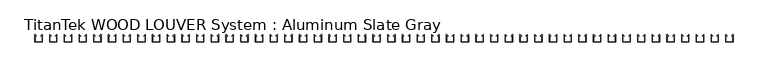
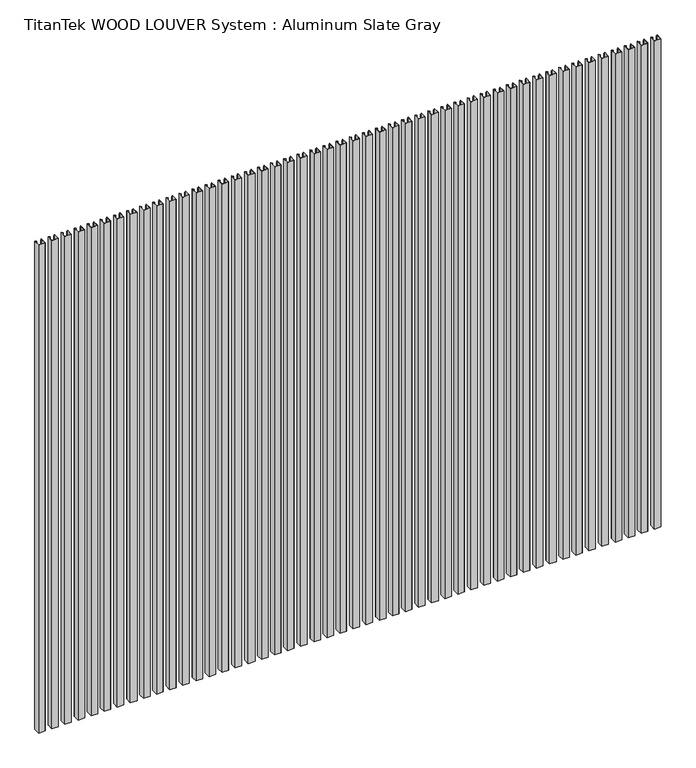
"""IFC4 building model written with IfcOpenShell, lengths in millimetres: proxy geometry, TitanTek WOOD LOUVER System : Aluminum Slate Gray."""

from ifc_helpers import new_model, si_unit, origin, origin_with_axes, place, context, project, spatial, polyline, outline, extrude, source, transform, mapped, element, save


def titantek_wood_louver_system_aluminum_slate_gray_186ec220(model_context):
    return source(origin(), model_context, "Body", "SweptSolid", [
        extrude(outline(polyline([(4749.8, -50.8), (4749.8, 0.0), (4750.7921875, 0.0), (4760.7707019, -8.3729677), (4760.132936, -9.1330275), (4750.7921875, -1.2952088), (4750.7921875, -49.8078125), (4799.6078125, -49.8078125), (4799.6078125, -1.2952088), (4790.267064, -9.1330275), (4789.6292981, -8.3729677), (4799.6078125, 0.0), (4800.6, 0.0), (4800.6, -50.8), (4749.8, -50.8)])), origin_with_axes(), (0.0, 0.0, 1.0), 4000.0),
        extrude(outline(polyline([(4648.2, -50.8), (4648.2, 0.0), (4649.1921875, 0.0), (4659.1707019, -8.3729677), (4658.532936, -9.1330275), (4649.1921875, -1.2952088), (4649.1921875, -49.8078125), (4698.0078125, -49.8078125), (4698.0078125, -1.2952088), (4688.667064, -9.1330275), (4688.0292981, -8.3729677), (4698.0078125, 0.0), (4699.0, 0.0), (4699.0, -50.8), (4648.2, -50.8)])), origin_with_axes(), (0.0, 0.0, 1.0), 4000.0),
        extrude(outline(polyline([(4546.6, -50.8), (4546.6, 0.0), (4547.5921875, 0.0), (4557.5707019, -8.3729677), (4556.932936, -9.1330275), (4547.5921875, -1.2952088), (4547.5921875, -49.8078125), (4596.4078125, -49.8078125), (4596.4078125, -1.2952088), (4587.067064, -9.1330275), (4586.4292981, -8.3729677), (4596.4078125, 0.0), (4597.4, 0.0), (4597.4, -50.8), (4546.6, -50.8)])), origin_with_axes(), (0.0, 0.0, 1.0), 4000.0),
        extrude(outline(polyline([(4445.0, -50.8), (4445.0, 0.0), (4445.9921875, 0.0), (4455.9707019, -8.3729677), (4455.332936, -9.1330275), (4445.9921875, -1.2952088), (4445.9921875, -49.8078125), (4494.8078125, -49.8078125), (4494.8078125, -1.2952088), (4485.467064, -9.1330275), (4484.8292981, -8.3729677), (4494.8078125, 0.0), (4495.8, 0.0), (4495.8, -50.8), (4445.0, -50.8)])), origin_with_axes(), (0.0, 0.0, 1.0), 4000.0),
        extrude(outline(polyline([(4343.4, -50.8), (4343.4, 0.0), (4344.3921875, 0.0), (4354.3707019, -8.3729677), (4353.732936, -9.1330275), (4344.3921875, -1.2952088), (4344.3921875, -49.8078125), (4393.2078125, -49.8078125), (4393.2078125, -1.2952088), (4383.867064, -9.1330275), (4383.2292981, -8.3729677), (4393.2078125, 0.0), (4394.2, 0.0), (4394.2, -50.8), (4343.4, -50.8)])), origin_with_axes(), (0.0, 0.0, 1.0), 4000.0),
        extrude(outline(polyline([(4241.8, -50.8), (4241.8, 0.0), (4242.7921875, 0.0), (4252.7707019, -8.3729677), (4252.132936, -9.1330275), (4242.7921875, -1.2952088), (4242.7921875, -49.8078125), (4291.6078125, -49.8078125), (4291.6078125, -1.2952088), (4282.267064, -9.1330275), (4281.6292981, -8.3729677), (4291.6078125, 0.0), (4292.6, 0.0), (4292.6, -50.8), (4241.8, -50.8)])), origin_with_axes(), (0.0, 0.0, 1.0), 4000.0),
        extrude(outline(polyline([(4140.2, -50.8), (4140.2, 0.0), (4141.1921875, 0.0), (4151.1707019, -8.3729677), (4150.532936, -9.1330275), (4141.1921875, -1.2952088), (4141.1921875, -49.8078125), (4190.0078125, -49.8078125), (4190.0078125, -1.2952088), (4180.667064, -9.1330275), (4180.0292981, -8.3729677), (4190.0078125, 0.0), (4191.0, 0.0), (4191.0, -50.8), (4140.2, -50.8)])), origin_with_axes(), (0.0, 0.0, 1.0), 4000.0),
        extrude(outline(polyline([(4038.6, -50.8), (4038.6, 0.0), (4039.5921875, 0.0), (4049.5707019, -8.3729677), (4048.932936, -9.1330275), (4039.5921875, -1.2952088), (4039.5921875, -49.8078125), (4088.4078125, -49.8078125), (4088.4078125, -1.2952088), (4079.067064, -9.1330275), (4078.4292981, -8.3729677), (4088.4078125, 0.0), (4089.4, 0.0), (4089.4, -50.8), (4038.6, -50.8)])), origin_with_axes(), (0.0, 0.0, 1.0), 4000.0),
        extrude(outline(polyline([(3937.0, -50.8), (3937.0, 0.0), (3937.9921875, 0.0), (3947.9707019, -8.3729677), (3947.332936, -9.1330275), (3937.9921875, -1.2952088), (3937.9921875, -49.8078125), (3986.8078125, -49.8078125), (3986.8078125, -1.2952088), (3977.467064, -9.1330275), (3976.8292981, -8.3729677), (3986.8078125, 0.0), (3987.8, 0.0), (3987.8, -50.8), (3937.0, -50.8)])), origin_with_axes(), (0.0, 0.0, 1.0), 4000.0),
        extrude(outline(polyline([(3835.4, -50.8), (3835.4, 0.0), (3836.3921875, 0.0), (3846.3707019, -8.3729677), (3845.732936, -9.1330275), (3836.3921875, -1.2952088), (3836.3921875, -49.8078125), (3885.2078125, -49.8078125), (3885.2078125, -1.2952088), (3875.867064, -9.1330275), (3875.2292981, -8.3729677), (3885.2078125, 0.0), (3886.2, 0.0), (3886.2, -50.8), (3835.4, -50.8)])), origin_with_axes(), (0.0, 0.0, 1.0), 4000.0),
        extrude(outline(polyline([(3733.8, -50.8), (3733.8, 0.0), (3734.7921875, 0.0), (3744.7707019, -8.3729677), (3744.132936, -9.1330275), (3734.7921875, -1.2952088), (3734.7921875, -49.8078125), (3783.6078125, -49.8078125), (3783.6078125, -1.2952088), (3774.267064, -9.1330275), (3773.6292981, -8.3729677), (3783.6078125, 0.0), (3784.6, 0.0), (3784.6, -50.8), (3733.8, -50.8)])), origin_with_axes(), (0.0, 0.0, 1.0), 4000.0),
        extrude(outline(polyline([(3632.2, -50.8), (3632.2, 0.0), (3633.1921875, 0.0), (3643.1707019, -8.3729677), (3642.532936, -9.1330275), (3633.1921875, -1.2952088), (3633.1921875, -49.8078125), (3682.0078125, -49.8078125), (3682.0078125, -1.2952088), (3672.667064, -9.1330275), (3672.0292981, -8.3729677), (3682.0078125, 0.0), (3683.0, 0.0), (3683.0, -50.8), (3632.2, -50.8)])), origin_with_axes(), (0.0, 0.0, 1.0), 4000.0),
        extrude(outline(polyline([(3530.6, -50.8), (3530.6, 0.0), (3531.5921875, 0.0), (3541.5707019, -8.3729677), (3540.932936, -9.1330275), (3531.5921875, -1.2952088), (3531.5921875, -49.8078125), (3580.4078125, -49.8078125), (3580.4078125, -1.2952088), (3571.067064, -9.1330275), (3570.4292981, -8.3729677), (3580.4078125, 0.0), (3581.4, 0.0), (3581.4, -50.8), (3530.6, -50.8)])), origin_with_axes(), (0.0, 0.0, 1.0), 4000.0),
        extrude(outline(polyline([(3429.0, -50.8), (3429.0, 0.0), (3429.9921875, 0.0), (3439.9707019, -8.3729677), (3439.332936, -9.1330275), (3429.9921875, -1.2952088), (3429.9921875, -49.8078125), (3478.8078125, -49.8078125), (3478.8078125, -1.2952088), (3469.467064, -9.1330275), (3468.8292981, -8.3729677), (3478.8078125, 0.0), (3479.8, 0.0), (3479.8, -50.8), (3429.0, -50.8)])), origin_with_axes(), (0.0, 0.0, 1.0), 4000.0),
        extrude(outline(polyline([(3327.4, -50.8), (3327.4, 0.0), (3328.3921875, 0.0), (3338.3707019, -8.3729677), (3337.732936, -9.1330275), (3328.3921875, -1.2952088), (3328.3921875, -49.8078125), (3377.2078125, -49.8078125), (3377.2078125, -1.2952088), (3367.867064, -9.1330275), (3367.2292981, -8.3729677), (3377.2078125, 0.0), (3378.2, 0.0), (3378.2, -50.8), (3327.4, -50.8)])), origin_with_axes(), (0.0, 0.0, 1.0), 4000.0),
        extrude(outline(polyline([(3225.8, -50.8), (3225.8, 0.0), (3226.7921875, 0.0), (3236.7707019, -8.3729677), (3236.132936, -9.1330275), (3226.7921875, -1.2952088), (3226.7921875, -49.8078125), (3275.6078125, -49.8078125), (3275.6078125, -1.2952088), (3266.267064, -9.1330275), (3265.6292981, -8.3729677), (3275.6078125, 0.0), (3276.6, 0.0), (3276.6, -50.8), (3225.8, -50.8)])), origin_with_axes(), (0.0, 0.0, 1.0), 4000.0),
        extrude(outline(polyline([(3124.2, -50.8), (3124.2, 0.0), (3125.1921875, 0.0), (3135.1707019, -8.3729677), (3134.532936, -9.1330275), (3125.1921875, -1.2952088), (3125.1921875, -49.8078125), (3174.0078125, -49.8078125), (3174.0078125, -1.2952088), (3164.667064, -9.1330275), (3164.0292981, -8.3729677), (3174.0078125, 0.0), (3175.0, 0.0), (3175.0, -50.8), (3124.2, -50.8)])), origin_with_axes(), (0.0, 0.0, 1.0), 4000.0),
        extrude(outline(polyline([(3022.6, -50.8), (3022.6, 0.0), (3023.5921875, 0.0), (3033.5707019, -8.3729677), (3032.932936, -9.1330275), (3023.5921875, -1.2952088), (3023.5921875, -49.8078125), (3072.4078125, -49.8078125), (3072.4078125, -1.2952088), (3063.067064, -9.1330275), (3062.4292981, -8.3729677), (3072.4078125, 0.0), (3073.4, 0.0), (3073.4, -50.8), (3022.6, -50.8)])), origin_with_axes(), (0.0, 0.0, 1.0), 4000.0),
        extrude(outline(polyline([(2921.0, -50.8), (2921.0, 0.0), (2921.9921875, 0.0), (2931.9707019, -8.3729677), (2931.332936, -9.1330275), (2921.9921875, -1.2952088), (2921.9921875, -49.8078125), (2970.8078125, -49.8078125), (2970.8078125, -1.2952088), (2961.467064, -9.1330275), (2960.8292981, -8.3729677), (2970.8078125, 0.0), (2971.8, 0.0), (2971.8, -50.8), (2921.0, -50.8)])), origin_with_axes(), (0.0, 0.0, 1.0), 4000.0),
        extrude(outline(polyline([(2819.4, -50.8), (2819.4, 0.0), (2820.3921875, 0.0), (2830.3707019, -8.3729677), (2829.732936, -9.1330275), (2820.3921875, -1.2952088), (2820.3921875, -49.8078125), (2869.2078125, -49.8078125), (2869.2078125, -1.2952088), (2859.867064, -9.1330275), (2859.2292981, -8.3729677), (2869.2078125, 0.0), (2870.2, 0.0), (2870.2, -50.8), (2819.4, -50.8)])), origin_with_axes(), (0.0, 0.0, 1.0), 4000.0),
        extrude(outline(polyline([(2717.8, -50.8), (2717.8, 0.0), (2718.7921875, 0.0), (2728.7707019, -8.3729677), (2728.132936, -9.1330275), (2718.7921875, -1.2952088), (2718.7921875, -49.8078125), (2767.6078125, -49.8078125), (2767.6078125, -1.2952088), (2758.267064, -9.1330275), (2757.6292981, -8.3729677), (2767.6078125, 0.0), (2768.6, 0.0), (2768.6, -50.8), (2717.8, -50.8)])), origin_with_axes(), (0.0, 0.0, 1.0), 4000.0),
        extrude(outline(polyline([(2616.2, -50.8), (2616.2, 0.0), (2617.1921875, 0.0), (2627.1707019, -8.3729677), (2626.532936, -9.1330275), (2617.1921875, -1.2952088), (2617.1921875, -49.8078125), (2666.0078125, -49.8078125), (2666.0078125, -1.2952088), (2656.667064, -9.1330275), (2656.0292981, -8.3729677), (2666.0078125, 0.0), (2667.0, 0.0), (2667.0, -50.8), (2616.2, -50.8)])), origin_with_axes(), (0.0, 0.0, 1.0), 4000.0),
        extrude(outline(polyline([(2514.6, -50.8), (2514.6, 0.0), (2515.5921875, 0.0), (2525.5707019, -8.3729677), (2524.932936, -9.1330275), (2515.5921875, -1.2952088), (2515.5921875, -49.8078125), (2564.4078125, -49.8078125), (2564.4078125, -1.2952088), (2555.067064, -9.1330275), (2554.4292981, -8.3729677), (2564.4078125, 0.0), (2565.4, 0.0), (2565.4, -50.8), (2514.6, -50.8)])), origin_with_axes(), (0.0, 0.0, 1.0), 4000.0),
        extrude(outline(polyline([(2413.0, -50.8), (2413.0, 0.0), (2413.9921875, 0.0), (2423.9707019, -8.3729677), (2423.332936, -9.1330275), (2413.9921875, -1.2952088), (2413.9921875, -49.8078125), (2462.8078125, -49.8078125), (2462.8078125, -1.2952088), (2453.467064, -9.1330275), (2452.8292981, -8.3729677), (2462.8078125, 0.0), (2463.8, 0.0), (2463.8, -50.8), (2413.0, -50.8)])), origin_with_axes(), (0.0, 0.0, 1.0), 4000.0),
        extrude(outline(polyline([(2311.4, -50.8), (2311.4, 0.0), (2312.3921875, 0.0), (2322.3707019, -8.3729677), (2321.732936, -9.1330275), (2312.3921875, -1.2952088), (2312.3921875, -49.8078125), (2361.2078125, -49.8078125), (2361.2078125, -1.2952088), (2351.867064, -9.1330275), (2351.2292981, -8.3729677), (2361.2078125, 0.0), (2362.2, 0.0), (2362.2, -50.8), (2311.4, -50.8)])), origin_with_axes(), (0.0, 0.0, 1.0), 4000.0),
        extrude(outline(polyline([(2209.8, -50.8), (2209.8, 0.0), (2210.7921875, 0.0), (2220.7707019, -8.3729677), (2220.132936, -9.1330275), (2210.7921875, -1.2952088), (2210.7921875, -49.8078125), (2259.6078125, -49.8078125), (2259.6078125, -1.2952088), (2250.267064, -9.1330275), (2249.6292981, -8.3729677), (2259.6078125, 0.0), (2260.6, 0.0), (2260.6, -50.8), (2209.8, -50.8)])), origin_with_axes(), (0.0, 0.0, 1.0), 4000.0),
        extrude(outline(polyline([(2108.2, -50.8), (2108.2, 0.0), (2109.1921875, 0.0), (2119.1707019, -8.3729677), (2118.532936, -9.1330275), (2109.1921875, -1.2952088), (2109.1921875, -49.8078125), (2158.0078125, -49.8078125), (2158.0078125, -1.2952088), (2148.667064, -9.1330275), (2148.0292981, -8.3729677), (2158.0078125, 0.0), (2159.0, 0.0), (2159.0, -50.8), (2108.2, -50.8)])), origin_with_axes(), (0.0, 0.0, 1.0), 4000.0),
        extrude(outline(polyline([(2006.6, -50.8), (2006.6, 0.0), (2007.5921875, 0.0), (2017.5707019, -8.3729677), (2016.932936, -9.1330275), (2007.5921875, -1.2952088), (2007.5921875, -49.8078125), (2056.4078125, -49.8078125), (2056.4078125, -1.2952088), (2047.067064, -9.1330275), (2046.4292981, -8.3729677), (2056.4078125, 0.0), (2057.4, 0.0), (2057.4, -50.8), (2006.6, -50.8)])), origin_with_axes(), (0.0, 0.0, 1.0), 4000.0),
        extrude(outline(polyline([(1905.0, -50.8), (1905.0, 0.0), (1905.9921875, 0.0), (1915.9707019, -8.3729677), (1915.332936, -9.1330275), (1905.9921875, -1.2952088), (1905.9921875, -49.8078125), (1954.8078125, -49.8078125), (1954.8078125, -1.2952088), (1945.467064, -9.1330275), (1944.8292981, -8.3729677), (1954.8078125, 0.0), (1955.8, 0.0), (1955.8, -50.8), (1905.0, -50.8)])), origin_with_axes(), (0.0, 0.0, 1.0), 4000.0),
        extrude(outline(polyline([(1803.4, -50.8), (1803.4, 0.0), (1804.3921875, 0.0), (1814.3707019, -8.3729677), (1813.732936, -9.1330275), (1804.3921875, -1.2952088), (1804.3921875, -49.8078125), (1853.2078125, -49.8078125), (1853.2078125, -1.2952088), (1843.867064, -9.1330275), (1843.2292981, -8.3729677), (1853.2078125, 0.0), (1854.2, 0.0), (1854.2, -50.8), (1803.4, -50.8)])), origin_with_axes(), (0.0, 0.0, 1.0), 4000.0),
        extrude(outline(polyline([(1701.8, -50.8), (1701.8, 0.0), (1702.7921875, 0.0), (1712.7707019, -8.3729677), (1712.132936, -9.1330275), (1702.7921875, -1.2952088), (1702.7921875, -49.8078125), (1751.6078125, -49.8078125), (1751.6078125, -1.2952088), (1742.267064, -9.1330275), (1741.6292981, -8.3729677), (1751.6078125, 0.0), (1752.6, 0.0), (1752.6, -50.8), (1701.8, -50.8)])), origin_with_axes(), (0.0, 0.0, 1.0), 4000.0),
        extrude(outline(polyline([(1600.2, -50.8), (1600.2, 0.0), (1601.1921875, 0.0), (1611.1707019, -8.3729677), (1610.532936, -9.1330275), (1601.1921875, -1.2952088), (1601.1921875, -49.8078125), (1650.0078125, -49.8078125), (1650.0078125, -1.2952088), (1640.667064, -9.1330275), (1640.0292981, -8.3729677), (1650.0078125, 0.0), (1651.0, 0.0), (1651.0, -50.8), (1600.2, -50.8)])), origin_with_axes(), (0.0, 0.0, 1.0), 4000.0),
        extrude(outline(polyline([(1498.6, -50.8), (1498.6, 0.0), (1499.5921875, 0.0), (1509.5707019, -8.3729677), (1508.932936, -9.1330275), (1499.5921875, -1.2952088), (1499.5921875, -49.8078125), (1548.4078125, -49.8078125), (1548.4078125, -1.2952088), (1539.067064, -9.1330275), (1538.4292981, -8.3729677), (1548.4078125, 0.0), (1549.4, 0.0), (1549.4, -50.8), (1498.6, -50.8)])), origin_with_axes(), (0.0, 0.0, 1.0), 4000.0),
        extrude(outline(polyline([(1397.0, -50.8), (1397.0, 0.0), (1397.9921875, 0.0), (1407.9707019, -8.3729677), (1407.332936, -9.1330275), (1397.9921875, -1.2952088), (1397.9921875, -49.8078125), (1446.8078125, -49.8078125), (1446.8078125, -1.2952088), (1437.467064, -9.1330275), (1436.8292981, -8.3729677), (1446.8078125, 0.0), (1447.8, 0.0), (1447.8, -50.8), (1397.0, -50.8)])), origin_with_axes(), (0.0, 0.0, 1.0), 4000.0),
        extrude(outline(polyline([(1295.4, -50.8), (1295.4, 0.0), (1296.3921875, 0.0), (1306.3707019, -8.3729677), (1305.732936, -9.1330275), (1296.3921875, -1.2952088), (1296.3921875, -49.8078125), (1345.2078125, -49.8078125), (1345.2078125, -1.2952088), (1335.867064, -9.1330275), (1335.2292981, -8.3729677), (1345.2078125, 0.0), (1346.2, 0.0), (1346.2, -50.8), (1295.4, -50.8)])), origin_with_axes(), (0.0, 0.0, 1.0), 4000.0),
        extrude(outline(polyline([(1193.8, -50.8), (1193.8, 0.0), (1194.7921875, 0.0), (1204.7707019, -8.3729677), (1204.132936, -9.1330275), (1194.7921875, -1.2952088), (1194.7921875, -49.8078125), (1243.6078125, -49.8078125), (1243.6078125, -1.2952088), (1234.267064, -9.1330275), (1233.6292981, -8.3729677), (1243.6078125, 0.0), (1244.6, 0.0), (1244.6, -50.8), (1193.8, -50.8)])), origin_with_axes(), (0.0, 0.0, 1.0), 4000.0),
        extrude(outline(polyline([(1092.2, -50.8), (1092.2, 0.0), (1093.1921875, 0.0), (1103.1707019, -8.3729677), (1102.532936, -9.1330275), (1093.1921875, -1.2952088), (1093.1921875, -49.8078125), (1142.0078125, -49.8078125), (1142.0078125, -1.2952088), (1132.667064, -9.1330275), (1132.0292981, -8.3729677), (1142.0078125, 0.0), (1143.0, 0.0), (1143.0, -50.8), (1092.2, -50.8)])), origin_with_axes(), (0.0, 0.0, 1.0), 4000.0),
        extrude(outline(polyline([(990.6, -50.8), (990.6, 0.0), (991.5921875, 0.0), (1001.5707019, -8.3729677), (1000.932936, -9.1330275), (991.5921875, -1.2952088), (991.5921875, -49.8078125), (1040.4078125, -49.8078125), (1040.4078125, -1.2952088), (1031.067064, -9.1330275), (1030.4292981, -8.3729677), (1040.4078125, 0.0), (1041.4, 0.0), (1041.4, -50.8), (990.6, -50.8)])), origin_with_axes(), (0.0, 0.0, 1.0), 4000.0),
        extrude(outline(polyline([(889.0, -50.8), (889.0, 0.0), (889.9921875, 0.0), (899.9707019, -8.3729677), (899.332936, -9.1330275), (889.9921875, -1.2952088), (889.9921875, -49.8078125), (938.8078125, -49.8078125), (938.8078125, -1.2952088), (929.467064, -9.1330275), (928.8292981, -8.3729677), (938.8078125, 0.0), (939.8, 0.0), (939.8, -50.8), (889.0, -50.8)])), origin_with_axes(), (0.0, 0.0, 1.0), 4000.0),
        extrude(outline(polyline([(787.4, -50.8), (787.4, 0.0), (788.3921875, 0.0), (798.3707019, -8.3729677), (797.732936, -9.1330275), (788.3921875, -1.2952088), (788.3921875, -49.8078125), (837.2078125, -49.8078125), (837.2078125, -1.2952088), (827.867064, -9.1330275), (827.2292981, -8.3729677), (837.2078125, 0.0), (838.2, 0.0), (838.2, -50.8), (787.4, -50.8)])), origin_with_axes(), (0.0, 0.0, 1.0), 4000.0),
        extrude(outline(polyline([(685.8, -50.8), (685.8, 0.0), (686.7921875, 0.0), (696.7707019, -8.3729677), (696.132936, -9.1330275), (686.7921875, -1.2952088), (686.7921875, -49.8078125), (735.6078125, -49.8078125), (735.6078125, -1.2952088), (726.267064, -9.1330275), (725.6292981, -8.3729677), (735.6078125, 0.0), (736.6, 0.0), (736.6, -50.8), (685.8, -50.8)])), origin_with_axes(), (0.0, 0.0, 1.0), 4000.0),
        extrude(outline(polyline([(584.2, -50.8), (584.2, 0.0), (585.1921875, 0.0), (595.1707019, -8.3729677), (594.532936, -9.1330275), (585.1921875, -1.2952088), (585.1921875, -49.8078125), (634.0078125, -49.8078125), (634.0078125, -1.2952088), (624.667064, -9.1330275), (624.0292981, -8.3729677), (634.0078125, 0.0), (635.0, 0.0), (635.0, -50.8), (584.2, -50.8)])), origin_with_axes(), (0.0, 0.0, 1.0), 4000.0),
        extrude(outline(polyline([(482.6, -50.8), (482.6, 0.0), (483.5921875, 0.0), (493.5707019, -8.3729677), (492.932936, -9.1330275), (483.5921875, -1.2952088), (483.5921875, -49.8078125), (532.4078125, -49.8078125), (532.4078125, -1.2952088), (523.067064, -9.1330275), (522.4292981, -8.3729677), (532.4078125, 0.0), (533.4, 0.0), (533.4, -50.8), (482.6, -50.8)])), origin_with_axes(), (0.0, 0.0, 1.0), 4000.0),
        extrude(outline(polyline([(381.0, -50.8), (381.0, 0.0), (381.9921875, 0.0), (391.9707019, -8.3729677), (391.332936, -9.1330275), (381.9921875, -1.2952088), (381.9921875, -49.8078125), (430.8078125, -49.8078125), (430.8078125, -1.2952088), (421.467064, -9.1330275), (420.8292981, -8.3729677), (430.8078125, 0.0), (431.8, 0.0), (431.8, -50.8), (381.0, -50.8)])), origin_with_axes(), (0.0, 0.0, 1.0), 4000.0),
        extrude(outline(polyline([(279.4, -50.8), (279.4, 0.0), (280.3921875, 0.0), (290.3707019, -8.3729677), (289.732936, -9.1330275), (280.3921875, -1.2952088), (280.3921875, -49.8078125), (329.2078125, -49.8078125), (329.2078125, -1.2952088), (319.867064, -9.1330275), (319.2292981, -8.3729677), (329.2078125, 0.0), (330.2, 0.0), (330.2, -50.8), (279.4, -50.8)])), origin_with_axes(), (0.0, 0.0, 1.0), 4000.0),
        extrude(outline(polyline([(177.8, -50.8), (177.8, 0.0), (178.7921875, 0.0), (188.7707019, -8.3729677), (188.132936, -9.1330275), (178.7921875, -1.2952088), (178.7921875, -49.8078125), (227.6078125, -49.8078125), (227.6078125, -1.2952088), (218.267064, -9.1330275), (217.6292981, -8.3729677), (227.6078125, 0.0), (228.6, 0.0), (228.6, -50.8), (177.8, -50.8)])), origin_with_axes(), (0.0, 0.0, 1.0), 4000.0),
        extrude(outline(polyline([(76.2, -50.8), (76.2, 0.0), (77.1921875, 0.0), (87.1707019, -8.3729677), (86.532936, -9.1330275), (77.1921875, -1.2952088), (77.1921875, -49.8078125), (126.0078125, -49.8078125), (126.0078125, -1.2952088), (116.667064, -9.1330275), (116.0292981, -8.3729677), (126.0078125, 0.0), (127.0, 0.0), (127.0, -50.8), (76.2, -50.8)])), origin_with_axes(), (0.0, 0.0, 1.0), 4000.0),
        extrude(outline(polyline([(-25.4, -50.8), (-25.4, 0.0), (-24.4078125, 0.0), (-14.4292981, -8.3729677), (-15.067064, -9.1330275), (-24.4078125, -1.2952088), (-24.4078125, -49.8078125), (24.4078125, -49.8078125), (24.4078125, -1.2952088), (15.067064, -9.1330275), (14.4292981, -8.3729677), (24.4078125, 0.0), (25.4, 0.0), (25.4, -50.8), (-25.4, -50.8)])), origin_with_axes(), (0.0, 0.0, 1.0), 4000.0),
    ])


if __name__ == "__main__":
    model = new_model("IFC4")
    model_context = context("Model", 3, world=origin())
    ifc_project = project(units=[si_unit("LENGTHUNIT", "METRE", prefix="MILLI")], contexts=[model_context])
    site = spatial("IfcSite", under=ifc_project)
    building = spatial("IfcBuilding", under=site)
    placement = place(None, origin())
    titantek_wood_louver_system_aluminum_slate_gray_shape = titantek_wood_louver_system_aluminum_slate_gray_186ec220(model_context)
    element("IfcBuildingElementProxy", 1, Name="TitanTek WOOD LOUVER System : Aluminum Slate Gray", ObjectType="TitanTek WOOD LOUVER System : Aluminum Slate Gray", at=placement, inside=building, context=model_context, shape_type="MappedRepresentation", body=[
        mapped(titantek_wood_louver_system_aluminum_slate_gray_shape, transform((0.0, 0.0, 0.0), x_axis=(1.0, 0.0, 0.0), y_axis=(0.0, 1.0, 0.0), z_axis=(0.0, 0.0, 1.0))),
    ])
    save(model, "model.ifc")
